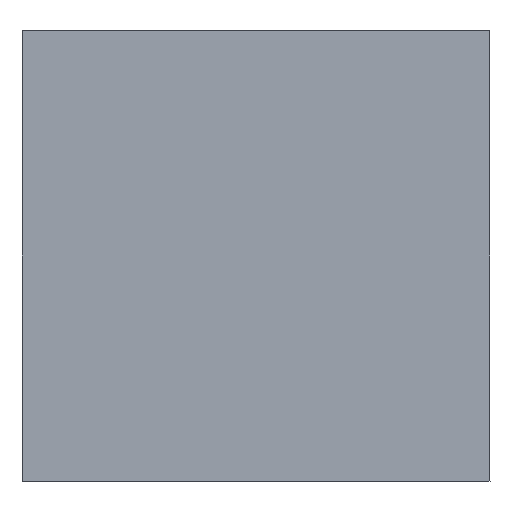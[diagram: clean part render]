
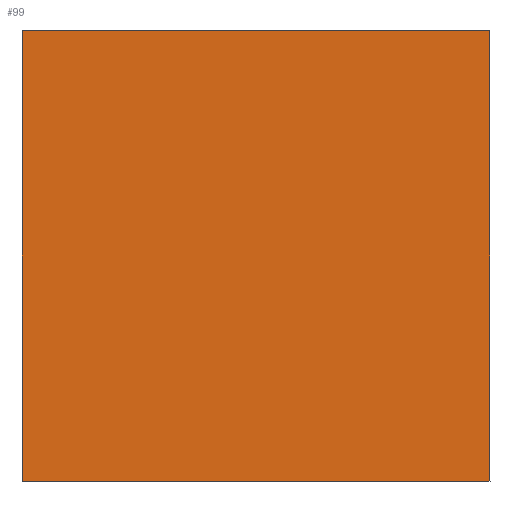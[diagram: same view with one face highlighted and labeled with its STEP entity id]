
A CAD part, top view. The second image highlights one B-rep face of the part: STEP entity #99.
In plain terms, the highlighted planar face has unit normal (0, 0, 1).
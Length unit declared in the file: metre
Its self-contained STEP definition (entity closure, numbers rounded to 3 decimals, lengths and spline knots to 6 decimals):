
#14=PLANE('',#112);
#18=LINE('',#151,#26);
#22=LINE('',#159,#30);
#23=LINE('',#166,#31);
#24=LINE('',#170,#32);
#26=VECTOR('',#120,1.);
#30=VECTOR('',#128,1.);
#31=VECTOR('',#131,1.);
#32=VECTOR('',#136,1.);
#53=ORIENTED_EDGE('',*,*,#66,.T.);
#54=ORIENTED_EDGE('',*,*,#64,.T.);
#55=ORIENTED_EDGE('',*,*,#60,.T.);
#56=ORIENTED_EDGE('',*,*,#68,.F.);
#60=EDGE_CURVE('',#69,#72,#18,.T.);
#64=EDGE_CURVE('',#75,#69,#22,.T.);
#66=EDGE_CURVE('',#76,#75,#23,.F.);
#68=EDGE_CURVE('',#76,#72,#24,.T.);
#69=VERTEX_POINT('',#145);
#72=VERTEX_POINT('',#150);
#75=VERTEX_POINT('',#160);
#76=VERTEX_POINT('',#167);
#84=EDGE_LOOP('',(#53,#54,#55,#56));
#90=FACE_BOUND('',#84,.T.);
#99=ADVANCED_FACE('',(#90),#14,.F.);
#112=AXIS2_PLACEMENT_3D('',#171,#137,#138);
#120=DIRECTION('',(-1.,0.,0.));
#128=DIRECTION('',(0.,1.,0.));
#131=DIRECTION('',(-1.,0.,0.));
#136=DIRECTION('',(0.,1.,0.));
#137=DIRECTION('',(0.,0.,-1.));
#138=DIRECTION('',(-1.,0.,0.));
#145=CARTESIAN_POINT('',(0.009748,-0.00115,-0.03));
#150=CARTESIAN_POINT('',(0.008398,-0.00115,-0.03));
#151=CARTESIAN_POINT('',(0.018748,-0.00115,-0.03));
#159=CARTESIAN_POINT('',(0.009748,0.01005,-0.03));
#160=CARTESIAN_POINT('',(0.009748,-0.00245,-0.03));
#166=CARTESIAN_POINT('',(0.018748,-0.00245,-0.03));
#167=CARTESIAN_POINT('',(0.008398,-0.00245,-0.03));
#170=CARTESIAN_POINT('',(0.008398,-0.00245,-0.03));
#171=CARTESIAN_POINT('',(0.018748,0.01005,-0.03));
